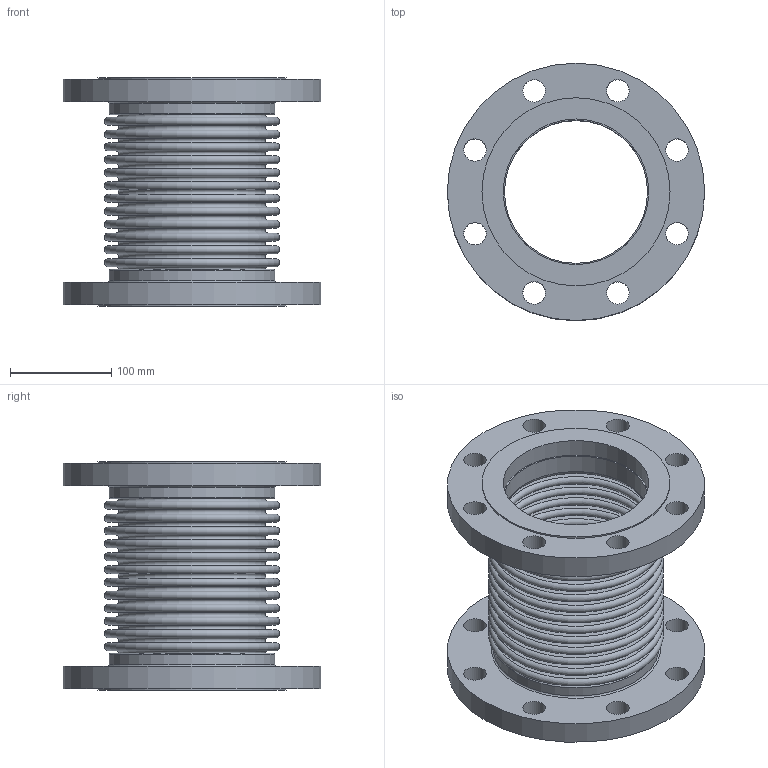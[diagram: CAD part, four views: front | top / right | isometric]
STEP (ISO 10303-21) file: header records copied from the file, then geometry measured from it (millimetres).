
FILE_DESCRIPTION(/* description */ ('EXPANSION JOINT,SINGLE, FLANGED ENDS,5 INCH NOMINAL','CAx-IF Rec.Pracs.---Representation and Presentation of Product Manufacturing Information (PMI)---4.0---2014-10-13'),/* implementation_level */ '2;1');
FILE_NAME(/* name */ 'US-05-12-300L-FLANGED ENDS.stp',/* time_stamp */ '2026-07-31T17:03:34-05:00',/* author */ ('Guadalupe'),/* organization */ (''),/* preprocessor_version */ 'ST-DEVELOPER v20.1',/* originating_system */ 'Autodesk Inventor 2026',/* authorisation */ '');
FILE_SCHEMA (('AP242_MANAGED_MODEL_BASED_3D_ENGINEERING_MIM_LF { 1 0 10303 442 2 1 4 }'));
Length unit declared in the file: inch
Products named in the file (3): 05-300L; 05-300L-02; 05-300L-01
Assembly tree (3 placements, depth 2):
  05-300L
    05-300L-02  x2
    05-300L-01
Bounding box: 254 x 254 x 225.55 mm (x, y, z)
Volume: 1905833.3 mm3; surface area: 696619.3 mm2
Topology: 5 solids, 5 shells, 144 faces, 246 edges, 164 vertices
Faces by surface type: plane 62, torus 54, cylinder 28
Full cylindrical faces by diameter (mm): 22.225 x16, 141.224 x2, 143.764 x2, 144.272 x2, 163.576 x2, 185.674 x2, 254 x2
Entity records: 3294 total; most frequent: DIRECTION 682, CARTESIAN_POINT 489, ORIENTED_EDGE 408, AXIS2_PLACEMENT_3D 333, EDGE_CURVE 204, EDGE_LOOP 200, CIRCLE 188, VERTEX_POINT 136
